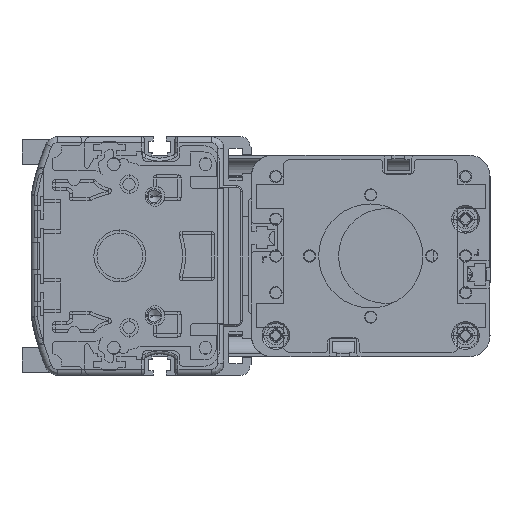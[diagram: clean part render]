
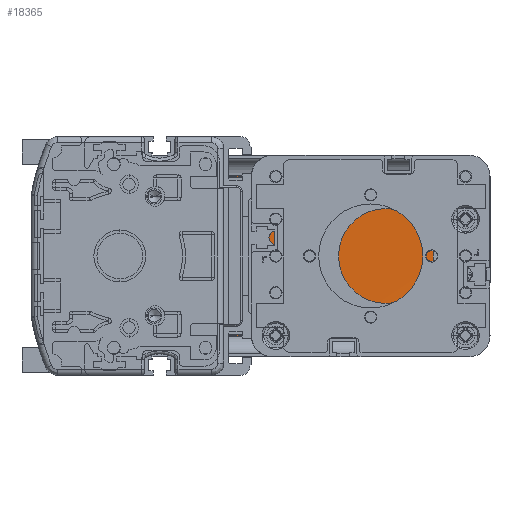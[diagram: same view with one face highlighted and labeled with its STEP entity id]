
A CAD part, left-side view. The second image highlights one B-rep face of the part: STEP entity #18365.
In plain terms, the highlighted spherical face has radius 998.8 mm.
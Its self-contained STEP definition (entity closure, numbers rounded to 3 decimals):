
#5490=CARTESIAN_POINT('',(29.,-67.569,0.));
#5491=DIRECTION('',(0.,1.,0.));
#5492=DIRECTION('',(1.,0.,0.026));
#5493=AXIS2_PLACEMENT_3D('',#5490,#5491,#5492);
#5513=CARTESIAN_POINT('',(29.,-67.569,0.));
#5514=DIRECTION('',(0.,1.,0.));
#5515=DIRECTION('',(1.,0.,-0.007));
#5516=AXIS2_PLACEMENT_3D('',#5513,#5514,#5515);
#5525=CARTESIAN_POINT('',(1025.688,-67.569,
-6.777));
#5526=CARTESIAN_POINT('',(1025.741,-66.776,
-6.493));
#5527=CARTESIAN_POINT('',(1025.841,-65.292,
-5.643));
#5528=CARTESIAN_POINT('',(1025.952,-63.641,
-3.684));
#5529=CARTESIAN_POINT('',(1026.011,-62.764,
-1.279));
#5530=CARTESIAN_POINT('',(1026.011,-62.764,1.28));
#5531=CARTESIAN_POINT('',(1025.952,-63.642,3.684));
#5532=CARTESIAN_POINT('',(1025.841,-65.293,5.644));
#5533=CARTESIAN_POINT('',(1025.741,-66.776,6.493));
#5534=CARTESIAN_POINT('',(1025.688,-67.569,6.777));
#5552=CARTESIAN_POINT('',(1025.688,61.569,6.777));
#5553=CARTESIAN_POINT('',(1025.741,60.779,6.494));
#5554=CARTESIAN_POINT('',(1025.84,59.299,5.648));
#5555=CARTESIAN_POINT('',(1025.952,57.642,3.687));
#5556=CARTESIAN_POINT('',(1026.011,56.764,1.28));
#5557=CARTESIAN_POINT('',(1026.011,56.764,-1.281));
#5558=CARTESIAN_POINT('',(1025.952,57.643,-3.688));
#5559=CARTESIAN_POINT('',(1025.84,59.3,-5.649));
#5560=CARTESIAN_POINT('',(1025.741,60.78,-6.494));
#5561=CARTESIAN_POINT('',(1025.688,61.569,-6.777));
#5563=CARTESIAN_POINT('',(29.,-3.,-26.152));
#5564=DIRECTION('',(0.,0.,1.));
#5565=DIRECTION('',(0.998,-0.065,0.));
#5566=AXIS2_PLACEMENT_3D('',#5563,#5564,#5565);
#5601=CARTESIAN_POINT('',(29.,61.569,0.));
#5602=DIRECTION('',(0.,-1.,0.));
#5603=DIRECTION('',(1.,0.,-0.026));
#5604=AXIS2_PLACEMENT_3D('',#5601,#5602,#5603);
#5615=CARTESIAN_POINT('',(29.,61.569,0.));
#5616=DIRECTION('',(0.,-1.,0.));
#5617=DIRECTION('',(1.,0.,0.007));
#5618=AXIS2_PLACEMENT_3D('',#5615,#5616,#5617);
#5695=CARTESIAN_POINT('',(29.,-3.,26.152));
#5696=DIRECTION('',(0.,0.,-1.));
#5697=DIRECTION('',(0.998,0.065,0.));
#5698=AXIS2_PLACEMENT_3D('',#5695,#5696,#5697);
#9110=VERTEX_POINT('',#5525);
#9111=VERTEX_POINT('',#5534);
#9112=CARTESIAN_POINT('',(1025.368,-67.569,26.152));
#9113=VERTEX_POINT('',#9112);
#9114=CARTESIAN_POINT('',(1025.368,61.569,26.152));
#9115=VERTEX_POINT('',#9114);
#9116=CARTESIAN_POINT('',(1025.688,61.569,6.777));
#9117=VERTEX_POINT('',#9116);
#9118=VERTEX_POINT('',#5561);
#9119=CARTESIAN_POINT('',(1025.368,61.569,-26.152));
#9120=VERTEX_POINT('',#9119);
#9121=CARTESIAN_POINT('',(1025.368,-67.569,
-26.152));
#9122=VERTEX_POINT('',#9121);
#18345=CARTESIAN_POINT('',(29.,-3.,0.));
#18346=DIRECTION('',(0.,-1.,0.));
#18347=DIRECTION('',(1.,0.,0.));
#18348=AXIS2_PLACEMENT_3D('',#18345,#18346,#18347);
#18349=SPHERICAL_SURFACE('',#18348,998.8);
#18350=ORIENTED_EDGE('',*,*,#18336,.F.);
#18351=ORIENTED_EDGE('',*,*,#18322,.T.);
#18353=ORIENTED_EDGE('',*,*,#18352,.T.);
#18355=ORIENTED_EDGE('',*,*,#18354,.T.);
#18357=ORIENTED_EDGE('',*,*,#18356,.F.);
#18359=ORIENTED_EDGE('',*,*,#18358,.T.);
#18361=ORIENTED_EDGE('',*,*,#18360,.T.);
#18362=ORIENTED_EDGE('',*,*,#18316,.T.);
#18363=EDGE_LOOP('',(#18350,#18351,#18353,#18355,#18357,#18359,#18361,#18362));
#18364=FACE_OUTER_BOUND('',#18363,.F.);
#18365=ADVANCED_FACE('',(#18364),#18349,.F.);
#5494=CIRCLE('',#5493,996.711);
#5517=CIRCLE('',#5516,996.711);
#5535=B_SPLINE_CURVE_WITH_KNOTS('',3,(#5525,#5526,#5527,#5528,#5529,#5530,#5531,
#5532,#5533,#5534),.UNSPECIFIED.,.F.,.F.,(4,1,1,1,1,1,1,4),(0.,
0.143,0.286,0.429,0.571,
0.714,0.857,1.),.UNSPECIFIED.);
#5562=B_SPLINE_CURVE_WITH_KNOTS('',3,(#5552,#5553,#5554,#5555,#5556,#5557,#5558,
#5559,#5560,#5561),.UNSPECIFIED.,.F.,.F.,(4,1,1,1,1,1,1,4),(0.,
0.143,0.286,0.429,0.571,
0.714,0.857,1.),.UNSPECIFIED.);
#5567=CIRCLE('',#5566,998.458);
#5605=CIRCLE('',#5604,996.711);
#5619=CIRCLE('',#5618,996.711);
#5699=CIRCLE('',#5698,998.458);
#18316=EDGE_CURVE('',#9113,#9111,#5494,.T.);
#18322=EDGE_CURVE('',#9110,#9122,#5517,.T.);
#18336=EDGE_CURVE('',#9110,#9111,#5535,.T.);
#18352=EDGE_CURVE('',#9122,#9120,#5567,.T.);
#18354=EDGE_CURVE('',#9120,#9118,#5605,.T.);
#18356=EDGE_CURVE('',#9117,#9118,#5562,.T.);
#18358=EDGE_CURVE('',#9117,#9115,#5619,.T.);
#18360=EDGE_CURVE('',#9115,#9113,#5699,.T.);
